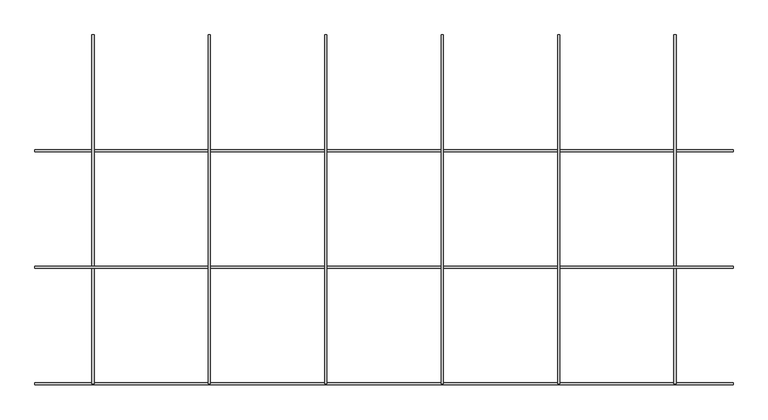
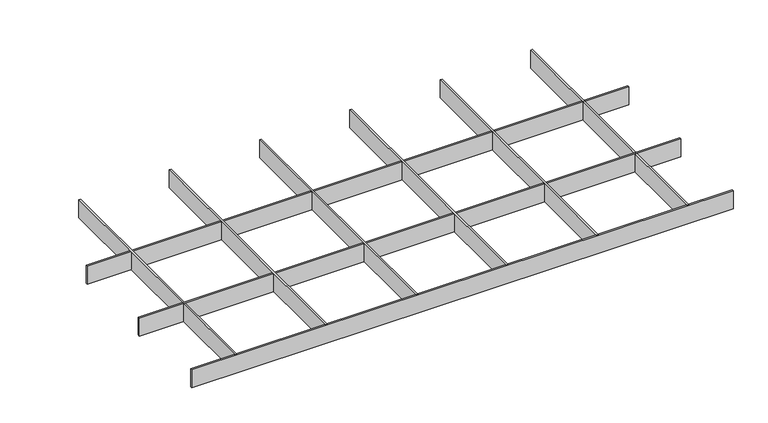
"""IFC4 building model written with IfcOpenShell, lengths in millimetres: proxy geometry, durlum_GEO_panel : durlum_GEO_4."""

from ifc_helpers import new_model, si_unit, origin, origin_with_axes, place, context, project, spatial, polyline, outline, extrude, source, transform, mapped, element, save


def generic_models_7d2a2b44(model_context):
    return source(origin(), model_context, "Body", "SweptSolid", [
        extrude(outline(polyline([(298.0, 299.5), (302.0, 299.5), (302.0, -299.5), (298.0, -299.5), (298.0, 299.5)])), origin_with_axes(), (0.0, 0.0, 1.0), 42.0),
        extrude(outline(polyline([(98.0, 299.5), (102.0, 299.5), (102.0, -299.5), (98.0, -299.5), (98.0, 299.5)])), origin_with_axes(), (0.0, 0.0, 1.0), 42.0),
        extrude(outline(polyline([(-102.0, 299.5), (-98.0, 299.5), (-98.0, -299.5), (-102.0, -299.5), (-102.0, 299.5)])), origin_with_axes(), (0.0, 0.0, 1.0), 42.0),
        extrude(outline(polyline([(-302.0, 299.5), (-298.0, 299.5), (-298.0, -299.5), (-302.0, -299.5), (-302.0, 299.5)])), origin_with_axes(), (0.0, 0.0, 1.0), 42.0),
        extrude(outline(polyline([(599.5, -97.5), (599.5, -101.5), (-599.5, -101.5), (-599.5, -97.5), (599.5, -97.5)])), origin_with_axes(), (0.0, 0.0, 1.0), 42.0),
        extrude(outline(polyline([(498.0, 299.5), (502.0, 299.5), (502.0, -299.5), (498.0, -299.5), (498.0, 299.5)])), origin_with_axes(), (0.0, 0.0, 1.0), 42.0),
        extrude(outline(polyline([(-502.0, 299.5), (-498.0, 299.5), (-498.0, -299.5), (-502.0, -299.5), (-502.0, 299.5)])), origin_with_axes(), (0.0, 0.0, 1.0), 42.0),
        extrude(outline(polyline([(599.5, -297.5), (599.5, -301.5), (-599.5, -301.5), (-599.5, -297.5), (599.5, -297.5)])), origin_with_axes(), (0.0, 0.0, 1.0), 42.0),
        extrude(outline(polyline([(599.5, 102.5), (599.5, 98.5), (-599.5, 98.5), (-599.5, 102.5), (599.5, 102.5)])), origin_with_axes(), (0.0, 0.0, 1.0), 42.0),
    ])


if __name__ == "__main__":
    model = new_model("IFC4")
    model_context = context("Model", 3, world=origin())
    ifc_project = project(units=[si_unit("LENGTHUNIT", "METRE", prefix="MILLI")], contexts=[model_context])
    site = spatial("IfcSite", under=ifc_project)
    building = spatial("IfcBuilding", under=site)
    placement = place(None, origin())
    generic_models_shape = generic_models_7d2a2b44(model_context)
    element("IfcBuildingElementProxy", 1, Name="durlum_GEO_panel : durlum_GEO_4", ObjectType="durlum_GEO_panel : durlum_GEO_4", at=placement, inside=building, context=model_context, shape_type="MappedRepresentation", body=[
        mapped(generic_models_shape, transform((0.0, 0.0, 0.0), x_axis=(1.0, 0.0, 0.0), y_axis=(0.0, 1.0, 0.0), z_axis=(0.0, 0.0, 1.0))),
    ])
    save(model, "model.ifc")
